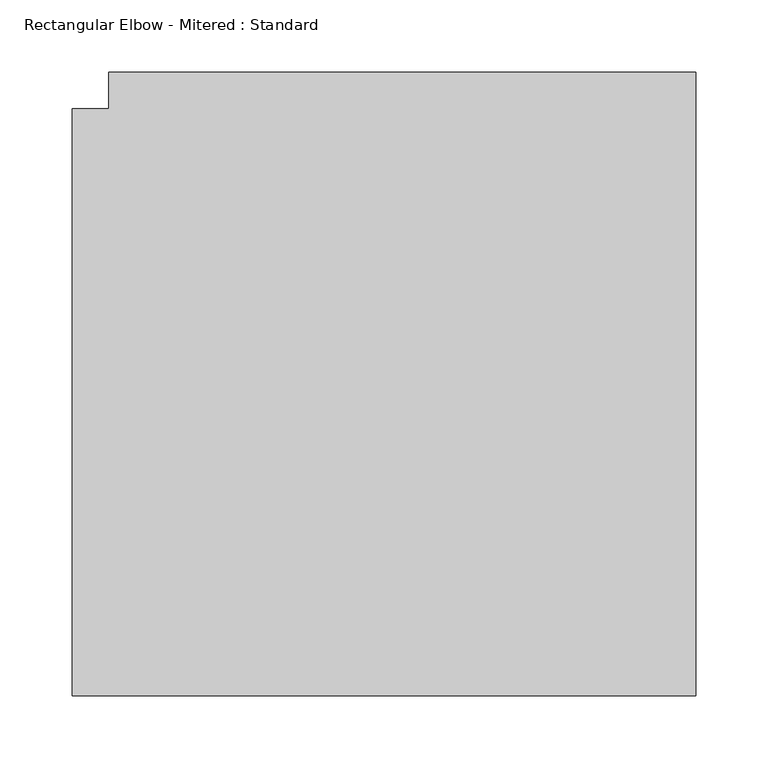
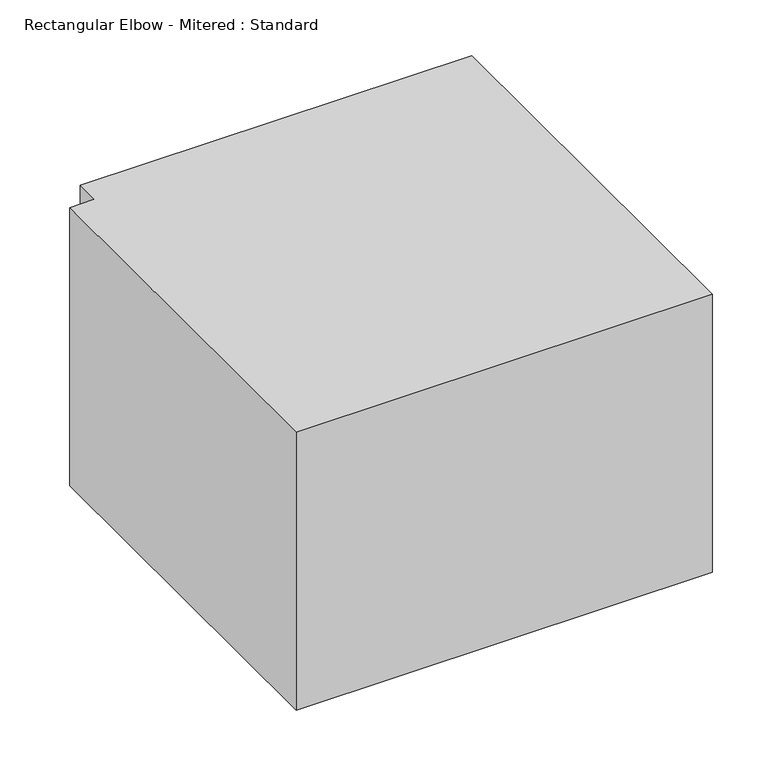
"""IFC4 building model written with IfcOpenShell, lengths in millimetres: duct fitting geometry, Rectangular Elbow - Mitered : Standard."""

from ifc_helpers import new_model, si_unit, frame, origin, place, context, project, spatial, polyline, outline, extrude, source, transform, mapped, element, save


def rectangular_elbow_mitered_standard_ae316b88(model_context):
    return source(origin(), model_context, "Body", "SweptSolid", [
        extrude(outline(polyline([(-228.6, -203.2), (-228.6, 203.2), (-203.2, 203.2), (-203.2, 228.6), (203.2, 228.6), (203.2, -203.2), (-228.6, -203.2)])), frame((0.0, 0.0, -152.4), z_axis=(0.0, 0.0, 1.0), x_axis=(1.0, 0.0, 0.0)), (0.0, 0.0, 1.0), 304.8),
    ])


if __name__ == "__main__":
    model = new_model("IFC4")
    model_context = context("Model", 3, world=origin())
    ifc_project = project(units=[si_unit("LENGTHUNIT", "METRE", prefix="MILLI")], contexts=[model_context])
    site = spatial("IfcSite", under=ifc_project)
    building = spatial("IfcBuilding", under=site)
    placement = place(None, origin())
    rectangular_elbow_mitered_standard_shape = rectangular_elbow_mitered_standard_ae316b88(model_context)
    element("IfcDuctFitting", 1, ObjectType="Rectangular Elbow - Mitered : Standard", at=placement, inside=building, context=model_context, shape_type="MappedRepresentation", body=[
        mapped(rectangular_elbow_mitered_standard_shape, transform((0.0, 0.0, 0.0), x_axis=(1.0, 0.0, 0.0), y_axis=(0.0, 1.0, 0.0), z_axis=(0.0, 0.0, 1.0))),
    ])
    save(model, "model.ifc")
